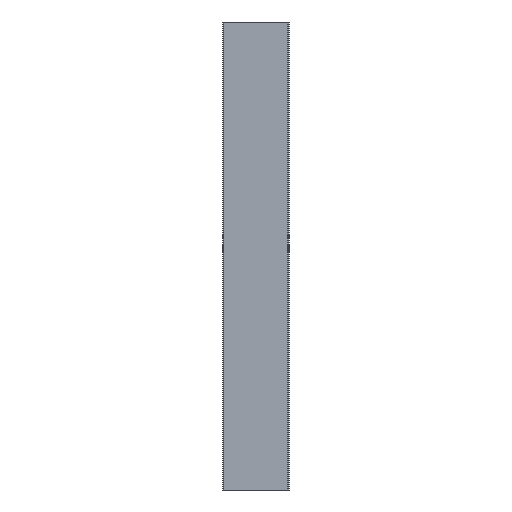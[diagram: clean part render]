
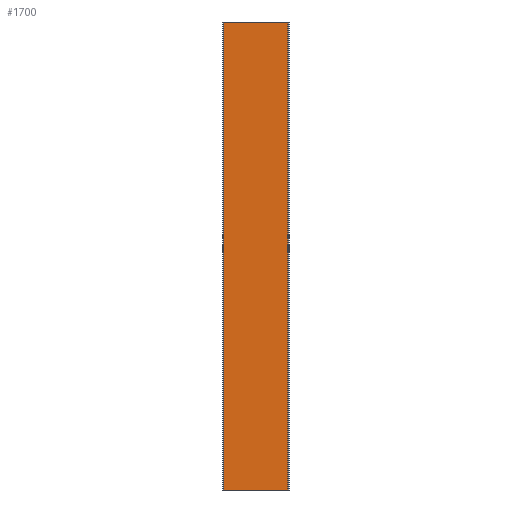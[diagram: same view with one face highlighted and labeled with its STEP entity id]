
A CAD part, left-side view. The second image highlights one B-rep face of the part: STEP entity #1700.
In plain terms, the highlighted planar face has unit normal (-1, 0, 0).
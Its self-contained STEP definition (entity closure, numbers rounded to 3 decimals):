
#13 = VECTOR ( 'NONE', #1373, 1000. ) ;
#87 = CARTESIAN_POINT ( 'NONE',  ( -23.5, 1.8, -568. ) ) ;
#152 = EDGE_LOOP ( 'NONE', ( #174, #1342, #1611, #743 ) ) ;
#174 = ORIENTED_EDGE ( 'NONE', *, *, #1390, .F. ) ;
#247 = CARTESIAN_POINT ( 'NONE',  ( -23.5, 1.8, -568. ) ) ;
#277 = LINE ( 'NONE', #1431, #1747 ) ;
#348 = LINE ( 'NONE', #521, #1483 ) ;
#521 = CARTESIAN_POINT ( 'NONE',  ( -23.5, 79.5, -568. ) ) ;
#577 = CARTESIAN_POINT ( 'NONE',  ( -23.5, 79.5, -568. ) ) ;
#595 = CARTESIAN_POINT ( 'NONE',  ( -23.5, 1.8, 0. ) ) ;
#660 = EDGE_CURVE ( 'NONE', #1301, #1633, #1337, .T. ) ;
#713 = LINE ( 'NONE', #595, #1702 ) ;
#737 = DIRECTION ( 'NONE',  ( 0., -1., 0. ) ) ;
#743 = ORIENTED_EDGE ( 'NONE', *, *, #1375, .T. ) ;
#748 = DIRECTION ( 'NONE',  ( 0., 0., 1. ) ) ;
#797 = CARTESIAN_POINT ( 'NONE',  ( -23.5, 1.8, -568. ) ) ;
#1085 = PLANE ( 'NONE',  #1688 ) ;
#1090 = DIRECTION ( 'NONE',  ( 0., 0., 1. ) ) ;
#1179 = FACE_OUTER_BOUND ( 'NONE', #152, .T. ) ;
#1301 = VERTEX_POINT ( 'NONE', #577 ) ;
#1337 = LINE ( 'NONE', #87, #13 ) ;
#1342 = ORIENTED_EDGE ( 'NONE', *, *, #1696, .F. ) ;
#1373 = DIRECTION ( 'NONE',  ( 0., -1., 0. ) ) ;
#1375 = EDGE_CURVE ( 'NONE', #1633, #1597, #277, .T. ) ;
#1390 = EDGE_CURVE ( 'NONE', #1616, #1597, #713, .T. ) ;
#1431 = CARTESIAN_POINT ( 'NONE',  ( -23.5, 1.8, -568. ) ) ;
#1483 = VECTOR ( 'NONE', #1090, 1000. ) ;
#1597 = VERTEX_POINT ( 'NONE', #1817 ) ;
#1611 = ORIENTED_EDGE ( 'NONE', *, *, #660, .T. ) ;
#1616 = VERTEX_POINT ( 'NONE', #1646 ) ;
#1633 = VERTEX_POINT ( 'NONE', #797 ) ;
#1646 = CARTESIAN_POINT ( 'NONE',  ( -23.5, 79.5, 0. ) ) ;
#1686 = DIRECTION ( 'NONE',  ( -1., 0., 0. ) ) ;
#1688 = AXIS2_PLACEMENT_3D ( 'NONE', #247, #1686, #1697 ) ;
#1696 = EDGE_CURVE ( 'NONE', #1301, #1616, #348, .T. ) ;
#1697 = DIRECTION ( 'NONE',  ( 0., 0., 1. ) ) ;
#1700 = ADVANCED_FACE ( 'NONE', ( #1179 ), #1085, .T. ) ;
#1702 = VECTOR ( 'NONE', #737, 1000. ) ;
#1747 = VECTOR ( 'NONE', #748, 1000. ) ;
#1817 = CARTESIAN_POINT ( 'NONE',  ( -23.5, 1.8, 0. ) ) ;
